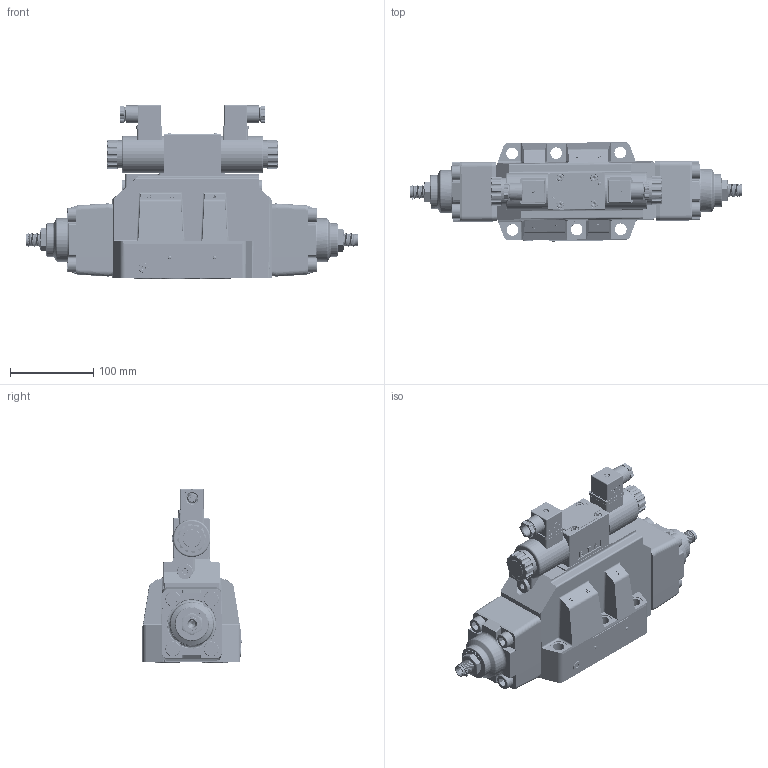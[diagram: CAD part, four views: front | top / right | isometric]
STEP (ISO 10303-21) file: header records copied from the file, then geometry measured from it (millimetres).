
FILE_DESCRIPTION(/* description */ (''),/* implementation_level */ '2;1');
FILE_NAME(/* name */ '4WEH25-5XJ-10带行程调节装置的电液换向阀.prt.stp',/* time_stamp */ '2022-03-30T19:43:17+08:00',/* author */ (''),/* organization */ (''),/* preprocessor_version */ 'ST-DEVELOPER v16.7',/* originating_system */ 'SIEMENS PLM Software NX 12.0',/* authorisation */ '');
FILE_SCHEMA (('AUTOMOTIVE_DESIGN { 1 0 10303 214 3 1 1 1 }'));
Products named in the file (1): 4WEH25-5XJ-10带行程调节装置的电液换向阀
Bounding box: 399.08 x 119.57 x 209.52 mm (x, y, z)
Volume: 2967243.4 mm3; surface area: 464077.5 mm2
Topology: 120 solids, 154 shells, 5967 faces, 16080 edges, 10623 vertices
Faces by surface type: plane 3861, cylinder 1288, extrusion 248, cone 231, bspline 205, torus 117, sphere 17
Full cylindrical faces by diameter (mm): 0.5 x4, 1.7 x4, 1.8 x6, 1.9 x4, 2 x18, 2.125 x6, 2.5 x14, 3 x6, 4 x3, 4.2 x35, 4.4 x2, 4.5 x6, 5 x125, 5.3 x4, 5.32 x2, 5.5 x7, 6 x4, 6.2 x2, 6.4 x2, 6.5 x1, 7 x1, 7.2 x2, 7.208 x2, 8 x3, 8.28 x4, 8.5 x96, 8.7 x2, 9 x2, 9.4 x4, 10 x2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
Entity records: 351436 total; most frequent: CARTESIAN_POINT 216088, ORIENTED_EDGE 27652, DIRECTION 24408, EDGE_CURVE 13826, VECTOR 10314, LINE 10066, VERTEX_POINT 9355, AXIS2_PLACEMENT_3D 7047
